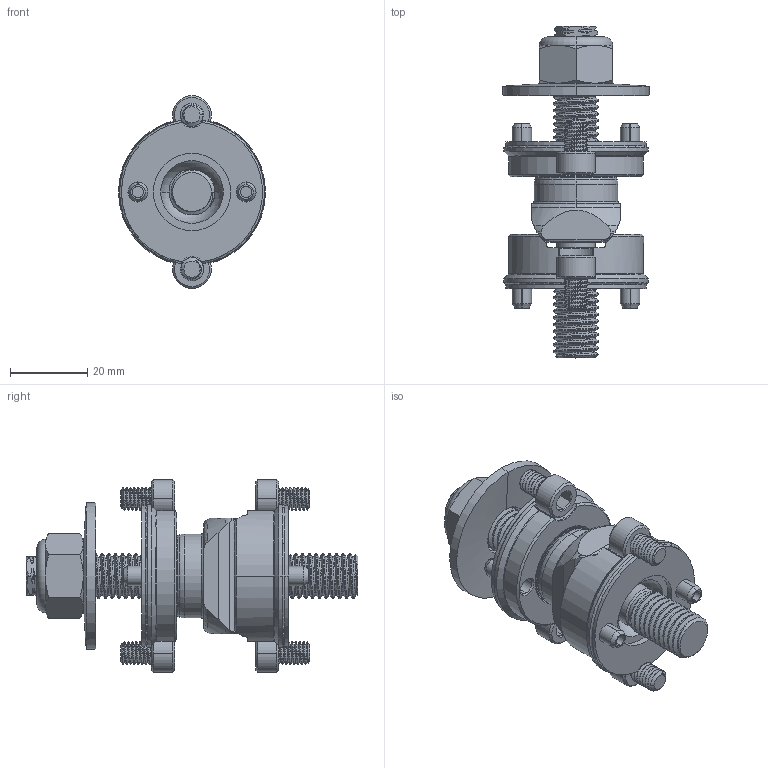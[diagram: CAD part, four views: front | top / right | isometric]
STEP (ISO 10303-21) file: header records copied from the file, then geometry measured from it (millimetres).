
FILE_DESCRIPTION (( 'STEP AP214' ), '1' );
FILE_NAME ('SPH25a-STK-FR-T(N) Through Fixed Retainer Stack (No Plates).STEP', '2026-03-17T22:26:52', ( '' ), ( '' ), 'SwSTEP 2.0', 'SolidWorks 2022', '' );
FILE_SCHEMA (( 'AUTOMOTIVE_DESIGN' ));
Length unit declared in the file: millimetre
Products named in the file (13): SPH25-BV Vee Block_SPH25-BV-SS1 Vee Block; SPH25-SP Spherolinder_SPH25-SP-SS1 Spherolinder; SPH25g-GEOMETRY; SPH25a-NUT-FR Fixed-Retainer Nut_SPH25-NUT-FR-T; SPH25-BC Cone Block_SPH25-BC-SS1 Cone Block; SPH25h-NL-T Through Locknut MCM_93625A400 M12x1.75 18-8 Stainless Steel Nylon-Insert Low Profile Locknut_93625A400; SPH25h-SI Installation Screw MCM-91292A201 M6x8.0 18-8 Stainless Steel Socket Head Screw_91292A201; SPH25a-TOP-FR Fixed-Retainer Top_Through wo Plate; SPH25h-WB-T Through Belleville Washer MCM_9713K449 0.531x1.5x0.095 1370lb Corrosion-Resistant Belleville Disc Spring_9713K449; SPH25h-PC C Spring Pin MCM_91610A599 M5x10.0 18-8 STAINLESS STEEL SLOTTED SPRING PIN_Closed; SPH25a-STK-FR-T(N) Through Fixed Retainer Stack (No Plates); SPH25-RF Fixed Retainer_SPH25-RF-T-SS2 Through Fixed Retainer; SPH25a-BTM-FR Fixed-Retainer Bottom_Through noPlate
Assembly tree (17 placements, depth 3):
  SPH25g-GEOMETRY
  SPH25a-STK-FR-T(N) Through Fixed Retainer Stack (No Plates)
    SPH25a-BTM-FR Fixed-Retainer Bottom_Through noPlate
      SPH25-BV Vee Block_SPH25-BV-SS1 Vee Block
      SPH25-SP Spherolinder_SPH25-SP-SS1 Spherolinder
      SPH25-RF Fixed Retainer_SPH25-RF-T-SS2 Through Fixed Retainer
      SPH25h-SI Installation Screw MCM-91292A201 M6x8.0 18-8 Stainless Steel Socket Head Screw_91292A201  x2
      SPH25h-PC C Spring Pin MCM_91610A599 M5x10.0 18-8 STAINLESS STEEL SLOTTED SPRING PIN_Closed  x2
    SPH25a-TOP-FR Fixed-Retainer Top_Through wo Plate
      SPH25-BC Cone Block_SPH25-BC-SS1 Cone Block
      SPH25h-SI Installation Screw MCM-91292A201 M6x8.0 18-8 Stainless Steel Socket Head Screw_91292A201  x2
      SPH25h-PC C Spring Pin MCM_91610A599 M5x10.0 18-8 STAINLESS STEEL SLOTTED SPRING PIN_Closed  x2
    SPH25a-NUT-FR Fixed-Retainer Nut_SPH25-NUT-FR-T
      SPH25h-WB-T Through Belleville Washer MCM_9713K449 0.531x1.5x0.095 1370lb Corrosion-Resistant Belleville Disc Spring_9713K449
      SPH25h-NL-T Through Locknut MCM_93625A400 M12x1.75 18-8 Stainless Steel Nylon-Insert Low Profile Locknut_93625A400
Bounding box: 38.1 x 86 x 50 mm (x, y, z)
Volume: 38122.8 mm3; surface area: 22509.1 mm2
Topology: 15 solids, 15 shells, 808 faces, 2120 edges, 1362 vertices
Faces by surface type: cylinder 354, cone 166, plane 123, bspline 119, torus 42, sphere 4
Entity records: 84641 total; most frequent: CARTESIAN_POINT 71143, ORIENTED_EDGE 3160, DIRECTION 2192, EDGE_CURVE 1580, VERTEX_POINT 1020, AXIS2_PLACEMENT_3D 894, EDGE_LOOP 626, FACE_OUTER_BOUND 592
